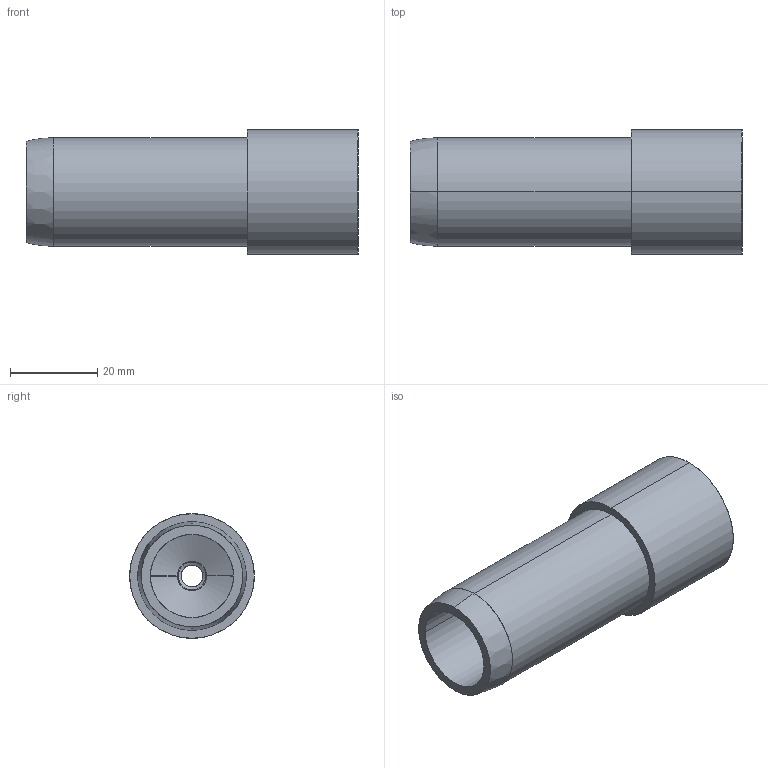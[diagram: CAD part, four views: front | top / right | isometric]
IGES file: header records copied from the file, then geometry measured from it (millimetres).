
Start section: SolidWorks IGES file using analytic representation for surfaces
Global section: file name: \\SERVER3\Design\_New Design Drive Folder List\_Design Vault\AAI\Modular Round Tube Connectors\Solidworks Models\STP Files\12202013\1.000 Inch Modular Connectors\DRP-002-0513-00.IGS; native system: SolidWorks 2013; preprocessor: SolidWorks 2013; author: tbraun; date: 131220.115015; units: inch
Bounding box: 76.2 x 28.57 x 28.57 mm (x, y, z)
Surface area: 11823 mm2 (no closed solid volume)
Topology: 0 solids, 0 shells, 25 faces, 356 edges, 356 vertices
Faces by surface type: bspline 15, revolution 10
